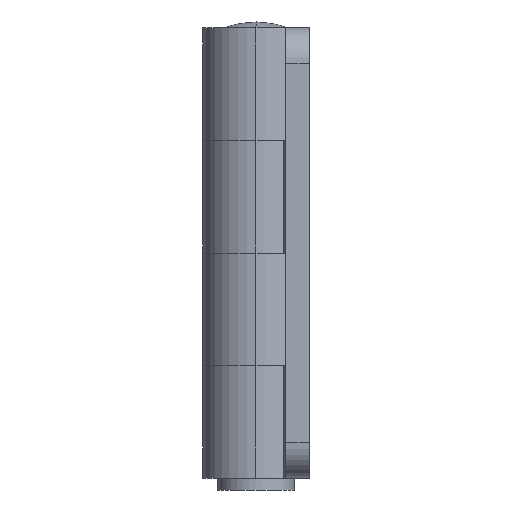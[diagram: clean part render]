
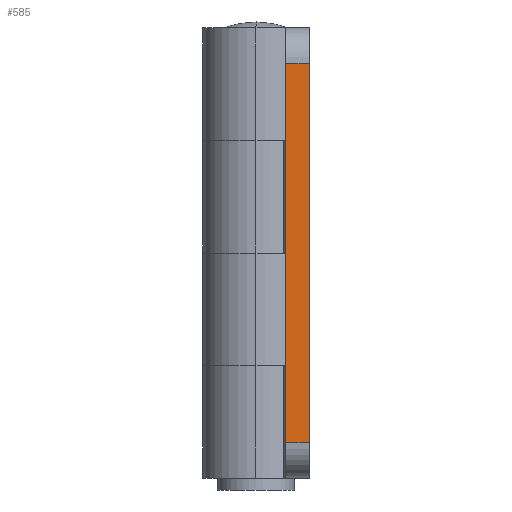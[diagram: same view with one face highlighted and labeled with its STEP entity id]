
A CAD part, left-side view. The second image highlights one B-rep face of the part: STEP entity #585.
In plain terms, the highlighted planar face has unit normal (-1, 0, 0).
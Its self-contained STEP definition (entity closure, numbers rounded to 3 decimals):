
#171 = CARTESIAN_POINT ( 'NONE',  ( -26.5, -2.5, 16. ) ) ;
#219 = EDGE_CURVE ( 'NONE', #762, #1130, #1028, .T. ) ;
#352 = VECTOR ( 'NONE', #886, 1000. ) ;
#363 = CARTESIAN_POINT ( 'NONE',  ( -26.5, -4.5, 16. ) ) ;
#480 = DIRECTION ( 'NONE',  ( -1., 0., 0. ) ) ;
#490 = DIRECTION ( 'NONE',  ( 0., 0., 1. ) ) ;
#537 = LINE ( 'NONE', #644, #1241 ) ;
#572 = CARTESIAN_POINT ( 'NONE',  ( -26.5, -2.5, 16. ) ) ;
#585 = ADVANCED_FACE ( 'NONE', ( #832 ), #893, .T. ) ;
#588 = EDGE_LOOP ( 'NONE', ( #634, #1463, #767, #802 ) ) ;
#609 = CARTESIAN_POINT ( 'NONE',  ( -26.5, -4.5, -16. ) ) ;
#634 = ORIENTED_EDGE ( 'NONE', *, *, #841, .F. ) ;
#644 = CARTESIAN_POINT ( 'NONE',  ( -26.5, -4.5, 19. ) ) ;
#660 = DIRECTION ( 'NONE',  ( 0., 0., -1. ) ) ;
#661 = CARTESIAN_POINT ( 'NONE',  ( -26.5, -2.5, -16. ) ) ;
#718 = DIRECTION ( 'NONE',  ( 0., 1., 0. ) ) ;
#762 = VERTEX_POINT ( 'NONE', #363 ) ;
#767 = ORIENTED_EDGE ( 'NONE', *, *, #1478, .T. ) ;
#802 = ORIENTED_EDGE ( 'NONE', *, *, #1171, .T. ) ;
#811 = DIRECTION ( 'NONE',  ( 0., 0., -1. ) ) ;
#832 = FACE_OUTER_BOUND ( 'NONE', #588, .T. ) ;
#841 = EDGE_CURVE ( 'NONE', #762, #1238, #537, .T. ) ;
#880 = VECTOR ( 'NONE', #811, 1000. ) ;
#886 = DIRECTION ( 'NONE',  ( 0., -1., 0. ) ) ;
#893 = PLANE ( 'NONE',  #1210 ) ;
#960 = LINE ( 'NONE', #980, #880 ) ;
#980 = CARTESIAN_POINT ( 'NONE',  ( -26.5, -2.5, 19. ) ) ;
#1028 = LINE ( 'NONE', #572, #1272 ) ;
#1130 = VERTEX_POINT ( 'NONE', #171 ) ;
#1171 = EDGE_CURVE ( 'NONE', #1467, #1238, #1436, .T. ) ;
#1210 = AXIS2_PLACEMENT_3D ( 'NONE', #1320, #480, #490 ) ;
#1238 = VERTEX_POINT ( 'NONE', #1353 ) ;
#1241 = VECTOR ( 'NONE', #660, 1000. ) ;
#1272 = VECTOR ( 'NONE', #718, 1000. ) ;
#1320 = CARTESIAN_POINT ( 'NONE',  ( -26.5, -4.5, 19. ) ) ;
#1353 = CARTESIAN_POINT ( 'NONE',  ( -26.5, -4.5, -16. ) ) ;
#1436 = LINE ( 'NONE', #609, #352 ) ;
#1463 = ORIENTED_EDGE ( 'NONE', *, *, #219, .T. ) ;
#1467 = VERTEX_POINT ( 'NONE', #661 ) ;
#1478 = EDGE_CURVE ( 'NONE', #1130, #1467, #960, .T. ) ;
